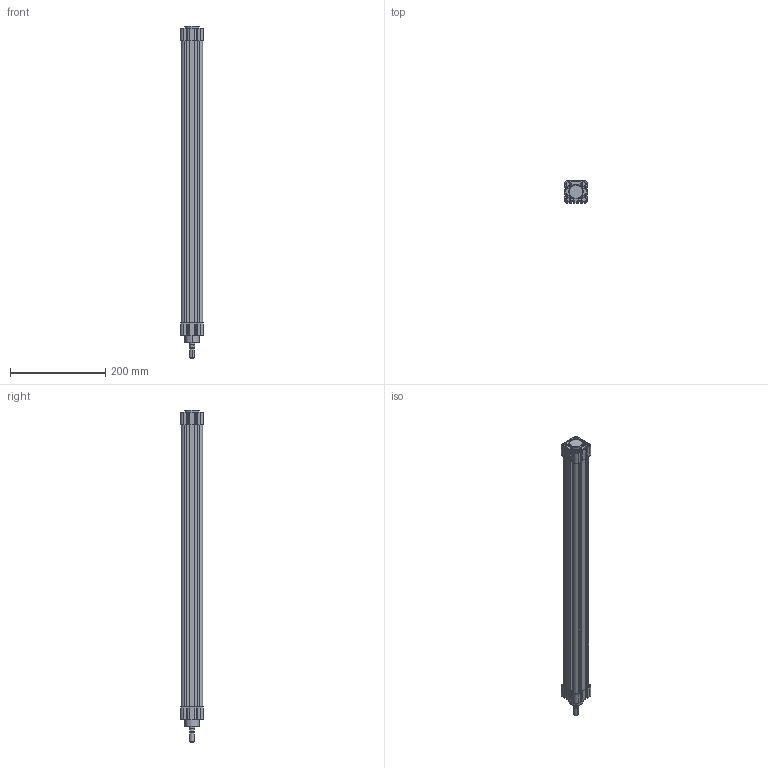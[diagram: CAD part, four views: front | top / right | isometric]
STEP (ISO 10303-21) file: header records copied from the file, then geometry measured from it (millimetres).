
FILE_DESCRIPTION((''),'2;1');
FILE_NAME('N11M20320550.stp','2010-01-06T22:16:28',('B. Petkovic 2010'),('AZ PNEUMATICA S.r.l.'),'Mechanical Desktop 2006','Mechanical Desktop 2006','Via Marco Biagi 6, I-20020 Misinto(MI) Italy, azpneu@tin.it');
FILE_SCHEMA(('CONFIG_CONTROL_DESIGN'));
Length unit declared in the file: millimetre
Products named in the file (2): N11M41250500; CILINDAR
Assembly tree (1 placements, depth 2):
  N11M41250500
    CILINDAR
Bounding box: 47 x 47 x 697 mm (x, y, z)
Volume: 1116338.6 mm3; surface area: 181758 mm2
Topology: 1 solids, 1 shells, 470 faces, 1236 edges, 811 vertices
Faces by surface type: plane 266, cylinder 190, torus 6, cone 4, bspline 4
Entity records: 14894 total; most frequent: CARTESIAN_POINT 2761, DIRECTION 2605, ORIENTED_EDGE 2472, EDGE_CURVE 1236, AXIS2_PLACEMENT_3D 903, VERTEX_POINT 811, VECTOR 799, LINE 799
